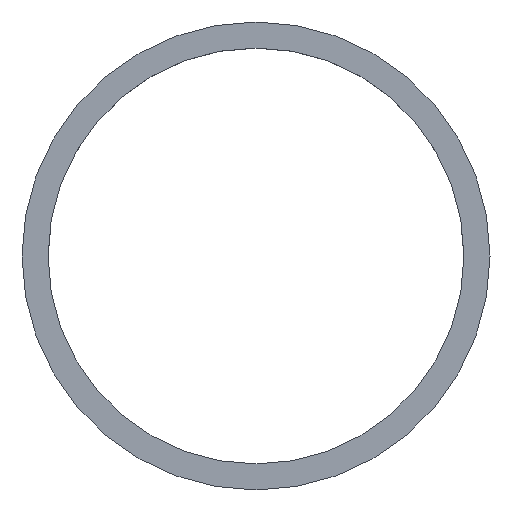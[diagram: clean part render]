
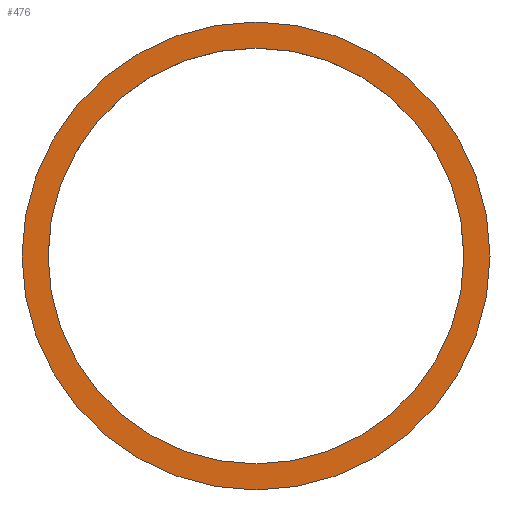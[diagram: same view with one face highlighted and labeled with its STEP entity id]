
A CAD part, top view. The second image highlights one B-rep face of the part: STEP entity #476.
In plain terms, the highlighted planar face has unit normal (0, 0, 1).
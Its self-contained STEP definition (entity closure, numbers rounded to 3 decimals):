
#43 = CYLINDRICAL_SURFACE('',#44,27.1);
#44 = AXIS2_PLACEMENT_3D('',#45,#46,#47);
#45 = CARTESIAN_POINT('',(0.,0.,7.));
#46 = DIRECTION('',(-0.,-0.,-1.));
#47 = DIRECTION('',(1.,0.,0.));
#74 = TOROIDAL_SURFACE('',#75,16.408,14.122);
#75 = AXIS2_PLACEMENT_3D('',#76,#77,#78);
#76 = CARTESIAN_POINT('',(0.,0.,7.92));
#77 = DIRECTION('',(0.,0.,1.));
#78 = DIRECTION('',(1.,0.,-0.));
#90 = VERTEX_POINT('',#91);
#91 = CARTESIAN_POINT('',(27.1,0.,7.));
#114 = EDGE_CURVE('',#90,#90,#115,.T.);
#115 = SURFACE_CURVE('',#116,(#121,#128),.PCURVE_S1.);
#116 = CIRCLE('',#117,27.1);
#117 = AXIS2_PLACEMENT_3D('',#118,#119,#120);
#118 = CARTESIAN_POINT('',(0.,0.,7.));
#119 = DIRECTION('',(0.,0.,1.));
#120 = DIRECTION('',(1.,0.,-0.));
#121 = PCURVE('',#43,#122);
#122 = DEFINITIONAL_REPRESENTATION('',(#123),#127);
#123 = LINE('',#124,#125);
#124 = CARTESIAN_POINT('',(-0.,0.));
#125 = VECTOR('',#126,1.);
#126 = DIRECTION('',(-1.,0.));
#127 = ( GEOMETRIC_REPRESENTATION_CONTEXT(2) 
PARAMETRIC_REPRESENTATION_CONTEXT() REPRESENTATION_CONTEXT('2D SPACE',''
  ) );
#128 = PCURVE('',#129,#134);
#129 = PLANE('',#130);
#130 = AXIS2_PLACEMENT_3D('',#131,#132,#133);
#131 = CARTESIAN_POINT('',(0.,0.,7.));
#132 = DIRECTION('',(0.,0.,1.));
#133 = DIRECTION('',(1.,0.,-0.));
#134 = DEFINITIONAL_REPRESENTATION('',(#135),#139);
#135 = CIRCLE('',#136,27.1);
#136 = AXIS2_PLACEMENT_2D('',#137,#138);
#137 = CARTESIAN_POINT('',(0.,0.));
#138 = DIRECTION('',(1.,0.));
#139 = ( GEOMETRIC_REPRESENTATION_CONTEXT(2) 
PARAMETRIC_REPRESENTATION_CONTEXT() REPRESENTATION_CONTEXT('2D SPACE',''
  ) );
#375 = VERTEX_POINT('',#376);
#376 = CARTESIAN_POINT('',(30.5,0.,7.));
#398 = EDGE_CURVE('',#375,#375,#399,.T.);
#399 = SURFACE_CURVE('',#400,(#405,#412),.PCURVE_S1.);
#400 = CIRCLE('',#401,30.5);
#401 = AXIS2_PLACEMENT_3D('',#402,#403,#404);
#402 = CARTESIAN_POINT('',(0.,0.,7.));
#403 = DIRECTION('',(0.,0.,1.));
#404 = DIRECTION('',(1.,0.,-0.));
#405 = PCURVE('',#74,#406);
#406 = DEFINITIONAL_REPRESENTATION('',(#407),#411);
#407 = LINE('',#408,#409);
#408 = CARTESIAN_POINT('',(0.,6.218));
#409 = VECTOR('',#410,1.);
#410 = DIRECTION('',(1.,0.));
#411 = ( GEOMETRIC_REPRESENTATION_CONTEXT(2) 
PARAMETRIC_REPRESENTATION_CONTEXT() REPRESENTATION_CONTEXT('2D SPACE',''
  ) );
#412 = PCURVE('',#129,#413);
#413 = DEFINITIONAL_REPRESENTATION('',(#414),#418);
#414 = CIRCLE('',#415,30.5);
#415 = AXIS2_PLACEMENT_2D('',#416,#417);
#416 = CARTESIAN_POINT('',(0.,0.));
#417 = DIRECTION('',(1.,0.));
#418 = ( GEOMETRIC_REPRESENTATION_CONTEXT(2) 
PARAMETRIC_REPRESENTATION_CONTEXT() REPRESENTATION_CONTEXT('2D SPACE',''
  ) );
#476 = ADVANCED_FACE('',(#477,#480),#129,.T.);
#477 = FACE_BOUND('',#478,.T.);
#478 = EDGE_LOOP('',(#479));
#479 = ORIENTED_EDGE('',*,*,#398,.T.);
#480 = FACE_BOUND('',#481,.T.);
#481 = EDGE_LOOP('',(#482));
#482 = ORIENTED_EDGE('',*,*,#114,.F.);
